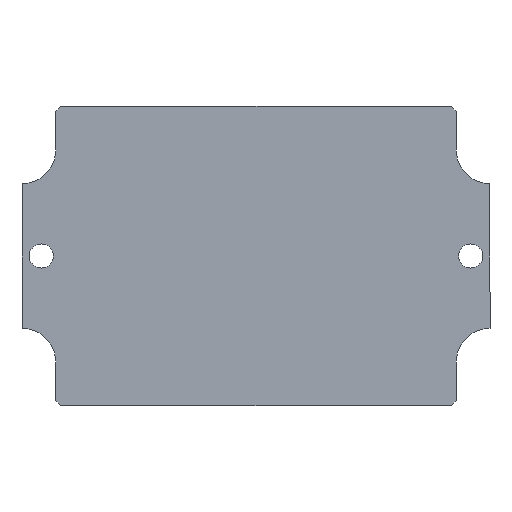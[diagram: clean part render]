
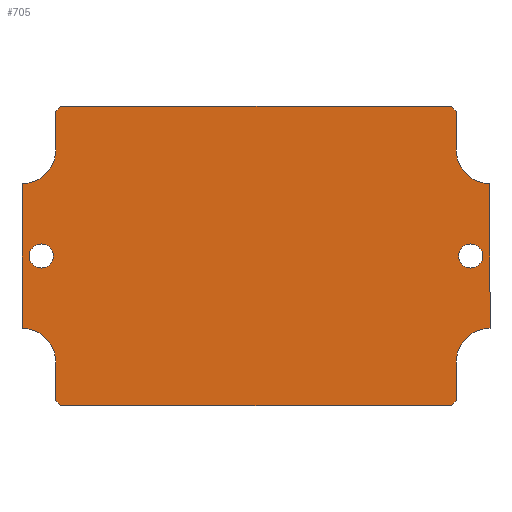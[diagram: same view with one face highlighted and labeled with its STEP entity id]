
A CAD part, top view. The second image highlights one B-rep face of the part: STEP entity #705.
In plain terms, the highlighted planar face has unit normal (0, 0, 1).
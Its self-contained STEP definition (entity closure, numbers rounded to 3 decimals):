
#49=CARTESIAN_POINT('',(57.825,17.216,0.5));
#50=VERTEX_POINT('',#49);
#51=CARTESIAN_POINT('',(58.825,16.216,0.5));
#52=VERTEX_POINT('',#51);
#53=CARTESIAN_POINT('',(57.825,17.216,0.5));
#54=DIRECTION('',(0.707,-0.707,0.0));
#55=VECTOR('',#54,1.414);
#56=LINE('',#53,#55);
#57=EDGE_CURVE('',#50,#52,#56,.T.);
#98=CARTESIAN_POINT('',(-23.175,17.216,0.5));
#99=VERTEX_POINT('',#98);
#106=CARTESIAN_POINT('',(-23.175,17.216,0.5));
#107=DIRECTION('',(1.0,0.0,0.0));
#108=VECTOR('',#107,81.0);
#109=LINE('',#106,#108);
#110=EDGE_CURVE('',#99,#50,#109,.T.);
#266=CARTESIAN_POINT('',(-23.175,-44.784,0.5));
#267=VERTEX_POINT('',#266);
#268=CARTESIAN_POINT('',(-24.175,-43.784,0.5));
#269=VERTEX_POINT('',#268);
#270=CARTESIAN_POINT('',(-23.175,-44.784,0.5));
#271=DIRECTION('',(-0.707,0.707,0.0));
#272=VECTOR('',#271,1.414);
#273=LINE('',#270,#272);
#274=EDGE_CURVE('',#267,#269,#273,.T.);
#299=CARTESIAN_POINT('',(57.825,-44.784,0.5));
#300=VERTEX_POINT('',#299);
#307=CARTESIAN_POINT('',(57.825,-44.784,0.5));
#308=DIRECTION('',(-1.0,0.0,0.0));
#309=VECTOR('',#308,81.0);
#310=LINE('',#307,#309);
#311=EDGE_CURVE('',#300,#267,#310,.T.);
#321=CARTESIAN_POINT('',(58.825,-43.784,0.5));
#322=VERTEX_POINT('',#321);
#323=CARTESIAN_POINT('',(58.825,-43.784,0.5));
#324=DIRECTION('',(-0.707,-0.707,0.0));
#325=VECTOR('',#324,1.414);
#326=LINE('',#323,#325);
#327=EDGE_CURVE('',#322,#300,#326,.T.);
#347=CARTESIAN_POINT('',(58.825,-35.784,0.5));
#348=VERTEX_POINT('',#347);
#355=CARTESIAN_POINT('',(58.825,-35.784,0.5));
#356=DIRECTION('',(0.0,-1.0,0.0));
#357=VECTOR('',#356,8.0);
#358=LINE('',#355,#357);
#359=EDGE_CURVE('',#348,#322,#358,.T.);
#369=CARTESIAN_POINT('',(-24.175,16.216,0.5));
#370=VERTEX_POINT('',#369);
#371=CARTESIAN_POINT('',(-24.175,16.216,0.5));
#372=DIRECTION('',(0.707,0.707,0.0));
#373=VECTOR('',#372,1.414);
#374=LINE('',#371,#373);
#375=EDGE_CURVE('',#370,#99,#374,.T.);
#417=CARTESIAN_POINT('',(-24.675,-13.784,0.5));
#418=VERTEX_POINT('',#417);
#419=CARTESIAN_POINT('',(-27.175,-13.784,0.5));
#420=DIRECTION('',(0.0,0.0,-1.0));
#421=DIRECTION('',(1.0,0.0,0.0));
#422=AXIS2_PLACEMENT_3D('',#419,#420,#421);
#423=CIRCLE('',#422,2.5);
#424=EDGE_CURVE('',#418,#418,#423,.T.);
#458=CARTESIAN_POINT('',(64.325,-13.784,0.5));
#459=VERTEX_POINT('',#458);
#460=CARTESIAN_POINT('',(61.825,-13.784,0.5));
#461=DIRECTION('',(0.0,0.0,-1.0));
#462=DIRECTION('',(1.0,0.0,0.0));
#463=AXIS2_PLACEMENT_3D('',#460,#461,#462);
#464=CIRCLE('',#463,2.5);
#465=EDGE_CURVE('',#459,#459,#464,.T.);
#475=CARTESIAN_POINT('',(58.825,8.216,0.5));
#476=VERTEX_POINT('',#475);
#477=CARTESIAN_POINT('',(65.825,1.216,0.5));
#478=VERTEX_POINT('',#477);
#479=CARTESIAN_POINT('',(65.825,8.216,0.5));
#480=DIRECTION('',(0.0,0.0,1.0));
#481=DIRECTION('',(1.0,0.0,0.0));
#482=AXIS2_PLACEMENT_3D('',#479,#480,#481);
#483=CIRCLE('',#482,7.0);
#484=EDGE_CURVE('',#476,#478,#483,.T.);
#507=CARTESIAN_POINT('',(65.825,-28.784,0.5));
#508=VERTEX_POINT('',#507);
#509=CARTESIAN_POINT('',(65.825,1.216,0.5));
#510=DIRECTION('',(0.0,-1.0,0.0));
#511=VECTOR('',#510,30.);
#512=LINE('',#509,#511);
#513=EDGE_CURVE('',#478,#508,#512,.T.);
#531=CARTESIAN_POINT('',(65.825,-35.784,0.5));
#532=DIRECTION('',(0.0,0.0,1.0));
#533=DIRECTION('',(0.0,-1.0,0.0));
#534=AXIS2_PLACEMENT_3D('',#531,#532,#533);
#535=CIRCLE('',#534,7.);
#536=EDGE_CURVE('',#508,#348,#535,.T.);
#550=CARTESIAN_POINT('',(-24.175,-35.784,0.5));
#551=VERTEX_POINT('',#550);
#552=CARTESIAN_POINT('',(-24.175,-43.784,0.5));
#553=DIRECTION('',(0.0,1.0,0.0));
#554=VECTOR('',#553,8.);
#555=LINE('',#552,#554);
#556=EDGE_CURVE('',#269,#551,#555,.T.);
#573=CARTESIAN_POINT('',(-31.175,-28.784,0.5));
#574=VERTEX_POINT('',#573);
#575=CARTESIAN_POINT('',(-31.175,-35.784,0.5));
#576=DIRECTION('',(0.0,0.0,1.0));
#577=DIRECTION('',(-1.0,0.0,0.0));
#578=AXIS2_PLACEMENT_3D('',#575,#576,#577);
#579=CIRCLE('',#578,7.);
#580=EDGE_CURVE('',#551,#574,#579,.T.);
#598=CARTESIAN_POINT('',(-31.175,1.216,0.5));
#599=VERTEX_POINT('',#598);
#600=CARTESIAN_POINT('',(-31.175,-28.784,0.5));
#601=DIRECTION('',(0.0,1.0,0.0));
#602=VECTOR('',#601,30.);
#603=LINE('',#600,#602);
#604=EDGE_CURVE('',#574,#599,#603,.T.);
#622=CARTESIAN_POINT('',(-24.175,8.216,0.5));
#623=VERTEX_POINT('',#622);
#624=CARTESIAN_POINT('',(-31.175,8.216,0.5));
#625=DIRECTION('',(0.0,0.0,1.0));
#626=DIRECTION('',(0.0,1.0,0.0));
#627=AXIS2_PLACEMENT_3D('',#624,#625,#626);
#628=CIRCLE('',#627,7.);
#629=EDGE_CURVE('',#599,#623,#628,.T.);
#650=CARTESIAN_POINT('',(-24.175,8.216,0.5));
#651=DIRECTION('',(0.0,1.0,0.0));
#652=VECTOR('',#651,8.0);
#653=LINE('',#650,#652);
#654=EDGE_CURVE('',#623,#370,#653,.T.);
#665=CARTESIAN_POINT('',(58.825,16.216,0.5));
#666=DIRECTION('',(0.0,-1.0,0.0));
#667=VECTOR('',#666,8.);
#668=LINE('',#665,#667);
#669=EDGE_CURVE('',#52,#476,#668,.T.);
#676=CARTESIAN_POINT('',(17.325,-13.784,0.5));
#677=DIRECTION('',(0.0,0.0,1.0));
#678=DIRECTION('',(1.0,0.0,0.0));
#679=AXIS2_PLACEMENT_3D('',#676,#677,#678);
#680=PLANE('',#679);
#681=ORIENTED_EDGE('',*,*,#57,.F.);
#682=ORIENTED_EDGE('',*,*,#110,.F.);
#683=ORIENTED_EDGE('',*,*,#375,.F.);
#684=ORIENTED_EDGE('',*,*,#654,.F.);
#685=ORIENTED_EDGE('',*,*,#629,.F.);
#686=ORIENTED_EDGE('',*,*,#604,.F.);
#687=ORIENTED_EDGE('',*,*,#580,.F.);
#688=ORIENTED_EDGE('',*,*,#556,.F.);
#689=ORIENTED_EDGE('',*,*,#274,.F.);
#690=ORIENTED_EDGE('',*,*,#311,.F.);
#691=ORIENTED_EDGE('',*,*,#327,.F.);
#692=ORIENTED_EDGE('',*,*,#359,.F.);
#693=ORIENTED_EDGE('',*,*,#536,.F.);
#694=ORIENTED_EDGE('',*,*,#513,.F.);
#695=ORIENTED_EDGE('',*,*,#484,.F.);
#696=ORIENTED_EDGE('',*,*,#669,.F.);
#697=EDGE_LOOP('',(#681,#682,#683,#684,#685,#686,#687,#688,#689,#690,#691,#692,#693,#694,#695,#696));
#698=FACE_OUTER_BOUND('',#697,.T.);
#699=ORIENTED_EDGE('',*,*,#424,.T.);
#700=EDGE_LOOP('',(#699));
#701=FACE_BOUND('',#700,.T.);
#702=ORIENTED_EDGE('',*,*,#465,.T.);
#703=EDGE_LOOP('',(#702));
#704=FACE_BOUND('',#703,.T.);
#705=ADVANCED_FACE('',(#698,#701,#704),#680,.T.);
